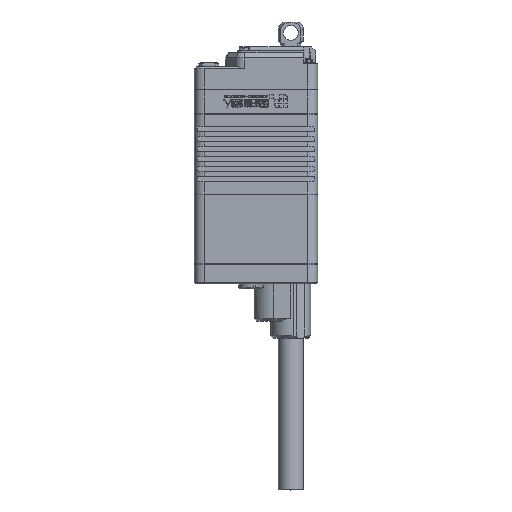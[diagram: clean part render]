
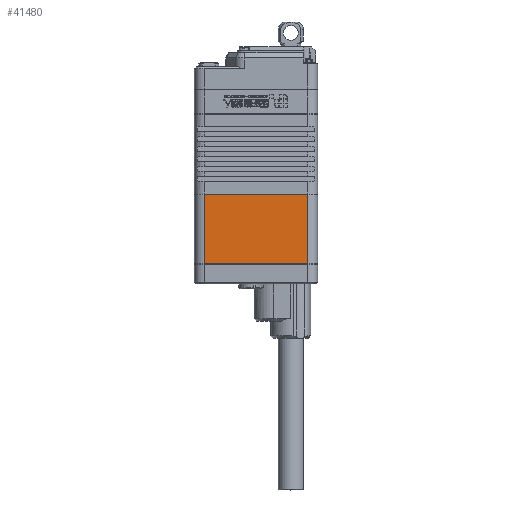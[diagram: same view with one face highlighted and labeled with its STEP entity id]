
A CAD part, top view. The second image highlights one B-rep face of the part: STEP entity #41480.
In plain terms, the highlighted planar face has unit normal (0, 0, 1).
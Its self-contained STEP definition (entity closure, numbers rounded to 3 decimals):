
#2708 = CARTESIAN_POINT ( 'NONE',  ( 10.4, -2.15, 5.4 ) ) ;
#3329 = VERTEX_POINT ( 'NONE', #39446 ) ;
#3775 = FACE_OUTER_BOUND ( 'NONE', #8146, .T. ) ;
#5110 = ORIENTED_EDGE ( 'NONE', *, *, #13265, .T. ) ;
#7029 = PLANE ( 'NONE',  #9272 ) ;
#7239 = CARTESIAN_POINT ( 'NONE',  ( -10.4, -2.15, 5.4 ) ) ;
#7773 = DIRECTION ( 'NONE',  ( 0., 1., 0. ) ) ;
#8146 = EDGE_LOOP ( 'NONE', ( #5110, #30109, #9250, #24008 ) ) ;
#9250 = ORIENTED_EDGE ( 'NONE', *, *, #27506, .T. ) ;
#9272 = AXIS2_PLACEMENT_3D ( 'NONE', #28709, #45492, #17084 ) ;
#10972 = EDGE_CURVE ( 'NONE', #18542, #14280, #34780, .T. ) ;
#12390 = VECTOR ( 'NONE', #19588, 1000. ) ;
#12517 = VECTOR ( 'NONE', #7773, 1000. ) ;
#13265 = EDGE_CURVE ( 'NONE', #18131, #18542, #39259, .T. ) ;
#14280 = VERTEX_POINT ( 'NONE', #37482 ) ;
#14554 = CARTESIAN_POINT ( 'NONE',  ( 10.4, -1.1, 5.4 ) ) ;
#17084 = DIRECTION ( 'NONE',  ( -1., 0., 0. ) ) ;
#18131 = VERTEX_POINT ( 'NONE', #23292 ) ;
#18542 = VERTEX_POINT ( 'NONE', #2708 ) ;
#19588 = DIRECTION ( 'NONE',  ( 1., 0., 0. ) ) ;
#21475 = DIRECTION ( 'NONE',  ( -1., 0., 0. ) ) ;
#23292 = CARTESIAN_POINT ( 'NONE',  ( 10.4, -16.05, 5.4 ) ) ;
#24008 = ORIENTED_EDGE ( 'NONE', *, *, #44123, .T. ) ;
#25595 = DIRECTION ( 'NONE',  ( 0., -1., 0. ) ) ;
#26575 = CARTESIAN_POINT ( 'NONE',  ( 10.4, -16.05, 5.4 ) ) ;
#27506 = EDGE_CURVE ( 'NONE', #14280, #3329, #35857, .T. ) ;
#28709 = CARTESIAN_POINT ( 'NONE',  ( 12.4, -1.1, 5.4 ) ) ;
#30109 = ORIENTED_EDGE ( 'NONE', *, *, #10972, .T. ) ;
#30450 = VECTOR ( 'NONE', #25595, 1000. ) ;
#33570 = LINE ( 'NONE', #26575, #12390 ) ;
#34780 = LINE ( 'NONE', #7239, #45293 ) ;
#35857 = LINE ( 'NONE', #40263, #30450 ) ;
#37482 = CARTESIAN_POINT ( 'NONE',  ( -10.4, -2.15, 5.4 ) ) ;
#39259 = LINE ( 'NONE', #14554, #12517 ) ;
#39446 = CARTESIAN_POINT ( 'NONE',  ( -10.4, -16.05, 5.4 ) ) ;
#40263 = CARTESIAN_POINT ( 'NONE',  ( -10.4, -1.1, 5.4 ) ) ;
#41480 = ADVANCED_FACE ( 'NONE', ( #3775 ), #7029, .F. ) ;
#44123 = EDGE_CURVE ( 'NONE', #3329, #18131, #33570, .T. ) ;
#45293 = VECTOR ( 'NONE', #21475, 1000. ) ;
#45492 = DIRECTION ( 'NONE',  ( 0., 0., -1. ) ) ;
